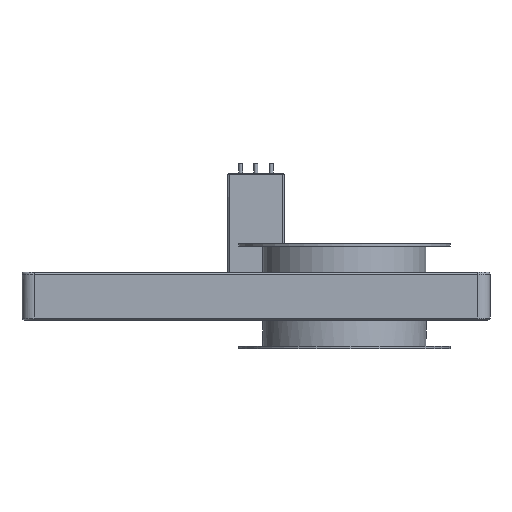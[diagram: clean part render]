
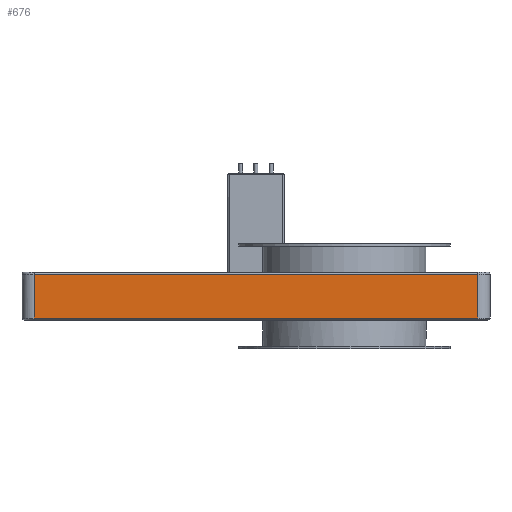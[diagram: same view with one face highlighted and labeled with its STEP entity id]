
A CAD part, front view. The second image highlights one B-rep face of the part: STEP entity #676.
In plain terms, the highlighted free-form (B-spline) face has degree [1, 1] with [2, 2] control points.
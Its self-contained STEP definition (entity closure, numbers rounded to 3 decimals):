
#623=CARTESIAN_POINT('',(-386.13,-135.,-27.25));
#624=VERTEX_POINT('',#623);
#633=CARTESIAN_POINT('',(-386.13,-135.,27.25));
#634=VERTEX_POINT('',#633);
#635=CARTESIAN_POINT('',(-386.13,-135.,27.25));
#636=CARTESIAN_POINT('',(-386.13,-135.,-27.25));
#637=B_SPLINE_CURVE_WITH_KNOTS('',1,(#635,#636),.POLYLINE_FORM.,.F.,.U.,(2,2),(0.042,0.958),.UNSPECIFIED.);
#638=EDGE_CURVE('',#634,#624,#637,.T.);
#649=CARTESIAN_POINT('',(-386.13,-135.,29.75));
#650=CARTESIAN_POINT('',(-386.13,-135.,-29.75));
#651=CARTESIAN_POINT('',(166.13,-135.,29.75));
#652=CARTESIAN_POINT('',(166.13,-135.,-29.75));
#653=B_SPLINE_SURFACE_WITH_KNOTS('',1,1,((#649,#650),(#651,#652)),.PLANE_SURF.,.F.,.F.,.U.,(2,2),(2,2),(0.,1.),(0.,1.),.UNSPECIFIED.);
#654=ORIENTED_EDGE('',*,*,#638,.F.);
#655=CARTESIAN_POINT('',(166.13,-135.,27.25));
#656=VERTEX_POINT('',#655);
#657=CARTESIAN_POINT('',(-386.13,-135.,27.25));
#658=CARTESIAN_POINT('',(166.13,-135.,27.25));
#659=B_SPLINE_CURVE_WITH_KNOTS('',1,(#657,#658),.POLYLINE_FORM.,.F.,.U.,(2,2),(0.,1.),.UNSPECIFIED.);
#660=EDGE_CURVE('',#634,#656,#659,.T.);
#661=ORIENTED_EDGE('',*,*,#660,.T.);
#662=CARTESIAN_POINT('',(166.13,-135.,-27.25));
#663=VERTEX_POINT('',#662);
#664=CARTESIAN_POINT('',(166.13,-135.,27.25));
#665=CARTESIAN_POINT('',(166.13,-135.,-27.25));
#666=B_SPLINE_CURVE_WITH_KNOTS('',1,(#664,#665),.POLYLINE_FORM.,.F.,.U.,(2,2),(0.042,0.958),.UNSPECIFIED.);
#667=EDGE_CURVE('',#656,#663,#666,.T.);
#668=ORIENTED_EDGE('',*,*,#667,.T.);
#669=CARTESIAN_POINT('',(-386.13,-135.,-27.25));
#670=CARTESIAN_POINT('',(166.13,-135.,-27.25));
#671=B_SPLINE_CURVE_WITH_KNOTS('',1,(#669,#670),.POLYLINE_FORM.,.F.,.U.,(2,2),(0.,1.),.UNSPECIFIED.);
#672=EDGE_CURVE('',#624,#663,#671,.T.);
#673=ORIENTED_EDGE('',*,*,#672,.F.);
#674=EDGE_LOOP('',(#654,#661,#668,#673));
#675=FACE_OUTER_BOUND('',#674,.F.);
#676=ADVANCED_FACE('',(#675),#653,.F.);
